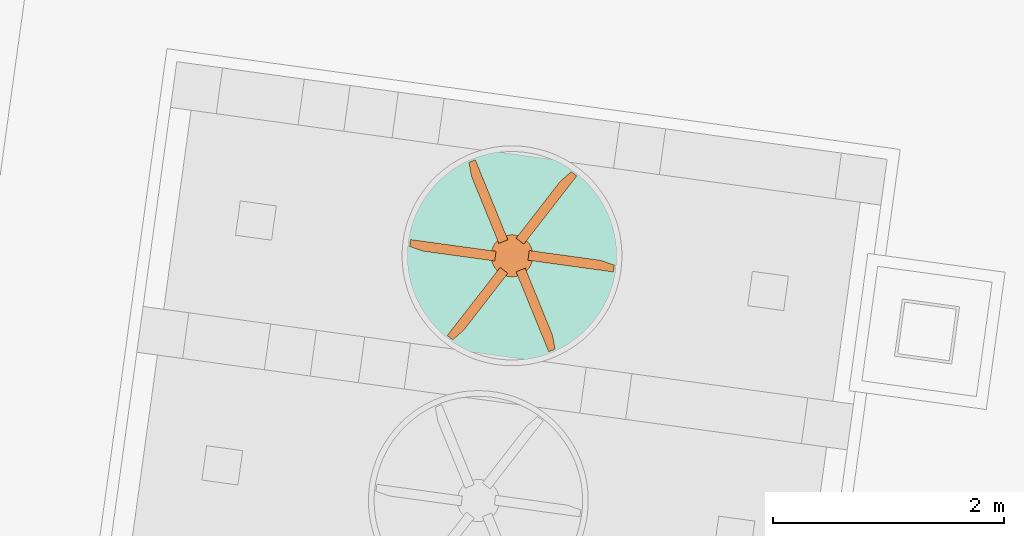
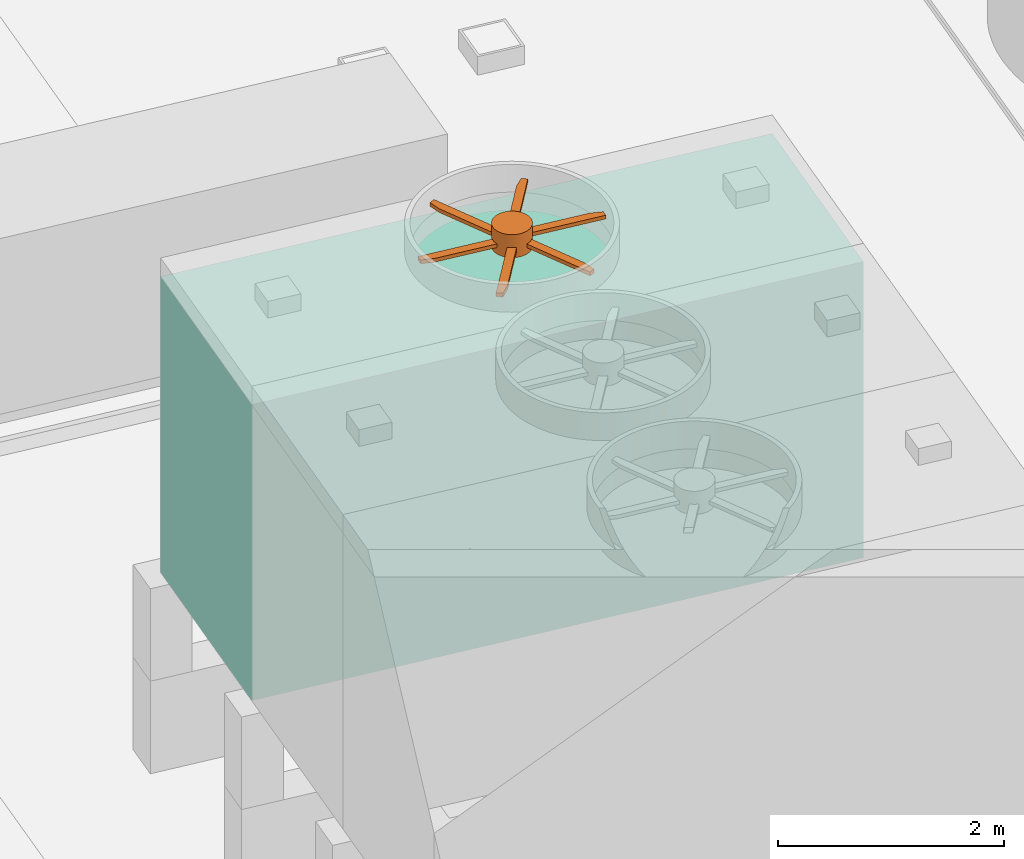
# Not in any storey, part 46 of 75: 7 proxies, plus 1 element that does not belong to this part.
"""IFC4 model written with IfcOpenShell, lengths in metres."""

import ifcopenshell
import ifcopenshell.guid

model = None  # the IFC model being written
_history = None  # IfcOwnerHistory: only IFC2X3 demands one
_inside = {}  # id of a spatial element -> (the spatial element, [elements in it])
_under = {}  # id of a project, library or spatial element -> (it, [spatial elements below it])
_declared = {}  # id of a project -> (the project, [libraries it declares])
_typed = {}  # id of a type object -> (the type object, [elements of that type])
_made_of = {}  # id of a material, layer set ... -> (it, [elements and type objects made of it])


def new_model(schema):
    """Start an empty IFC model of exactly this schema.

    Asked for "IFC4X3", IfcOpenShell would pick the latest addendum, in which some entities
    have other attributes; the version numbers below select the first issue.
    IFC2X3 requires an IfcOwnerHistory on every rooted entity: one is made here for all.
    """
    global model, _history
    if schema == "IFC4X3":
        model = ifcopenshell.file(schema_version=(4, 3, 0, 0))
    else:
        model = ifcopenshell.file(schema=schema)
    _inside.clear()
    _under.clear()
    _declared.clear()
    _typed.clear()
    _made_of.clear()
    _history = None
    if model.schema == "IFC2X3":
        org = make("IfcOrganization", Name="unknown")
        user = make(
            "IfcPersonAndOrganization",
            ThePerson=make("IfcPerson", FamilyName="unknown"),
            TheOrganization=org,
        )
        app = make(
            "IfcApplication",
            ApplicationDeveloper=org,
            Version="unknown",
            ApplicationFullName="unknown",
            ApplicationIdentifier="unknown",
        )
        _history = make(
            "IfcOwnerHistory",
            OwningUser=user,
            OwningApplication=app,
            ChangeAction="ADDED",
            CreationDate=0,
        )
    return model


def make(cls, **values):
    """One entity of the class cls with the attributes given. An attribute that is None is left unset."""
    return model.create_entity(
        cls, **{name: value for name, value in values.items() if value is not None}
    )


def rooted(cls, **values):
    """An entity with a GlobalId (a new one), such as an element, a storey or a relation."""
    return make(cls, GlobalId=ifcopenshell.guid.new(), OwnerHistory=_history, **values)


def si_unit(unit_type, name, prefix=None):
    """IfcSIUnit, for example si_unit("LENGTHUNIT", "METRE", prefix="MILLI")."""
    return make("IfcSIUnit", UnitType=unit_type, Prefix=prefix, Name=name)


def assignment(units):
    """IfcUnitAssignment: the units of a project."""
    return None if units is None else make("IfcUnitAssignment", Units=units)


def point(xyz):
    """IfcCartesianPoint."""
    return None if xyz is None else make("IfcCartesianPoint", Coordinates=xyz)


def direction(xyz):
    """IfcDirection."""
    return None if xyz is None else make("IfcDirection", DirectionRatios=xyz)


def frame(location, z_axis=None, x_axis=None):
    """IfcAxis2Placement3D, a coordinate frame: its origin and axes. An axis left out is left unset."""
    return make(
        "IfcAxis2Placement3D",
        Location=point(location),
        Axis=direction(z_axis),
        RefDirection=direction(x_axis),
    )


def origin_with_axes():
    """The frame at (0, 0, 0) with the z axis (0, 0, 1) and the x axis (1, 0, 0) written out."""
    return frame((0.0, 0.0, 0.0), z_axis=(0.0, 0.0, 1.0), x_axis=(1.0, 0.0, 0.0))


def place(relative_to, where):
    """IfcLocalPlacement: puts the frame where relative to a parent placement (None: the world)."""
    return make(
        "IfcLocalPlacement", PlacementRelTo=relative_to, RelativePlacement=where
    )


def context(
    kind, dimensions, precision=None, world=None, true_north=None, identifier=None
):
    """IfcGeometricRepresentationContext, for example the 3D "Model" context."""
    return make(
        "IfcGeometricRepresentationContext",
        ContextIdentifier=identifier,
        ContextType=kind,
        CoordinateSpaceDimension=dimensions,
        Precision=precision,
        WorldCoordinateSystem=world,
        TrueNorth=true_north,
    )


def subcontext(parent, identifier, kind, view, scale=None):
    """IfcGeometricRepresentationSubContext, for example "Body" below "Model"."""
    return make(
        "IfcGeometricRepresentationSubContext",
        ContextIdentifier=identifier,
        ContextType=kind,
        ParentContext=parent,
        TargetScale=scale,
        TargetView=view,
    )


def project(units=None, contexts=None):
    """IfcProject with its units and contexts."""
    return rooted(
        "IfcProject",
        Name="project",
        RepresentationContexts=contexts,
        UnitsInContext=assignment(units),
    )


def spatial(cls, under=None, at=None, **own):
    """A site, building, storey or space (cls), placed at a placement, below another one or the project."""
    s = rooted(cls, ObjectPlacement=at, **own)
    if under is not None:
        _under.setdefault(under.id(), (under, []))[1].append(s)
    return s


def point_list(points):
    """IfcCartesianPointList2D or 3D."""
    cls = (
        "IfcCartesianPointList2D" if len(points[0]) == 2 else "IfcCartesianPointList3D"
    )
    return make(cls, CoordList=points)


def triangles(points, corners, closed=None, point_numbers=None):
    """IfcTriangulatedFaceSet: each triangle names its three corners, points numbered from 1."""
    return make(
        "IfcTriangulatedFaceSet",
        Coordinates=point_list(points),
        Closed=closed,
        CoordIndex=corners,
        PnIndex=point_numbers,
    )


def shape(context_of_items, identifier, shape_type, items):
    """IfcShapeRepresentation: the items that make up one representation, for example the "Body"."""
    return make(
        "IfcShapeRepresentation",
        ContextOfItems=context_of_items,
        RepresentationIdentifier=identifier,
        RepresentationType=shape_type,
        Items=items,
    )


def made_of(thing, what):
    """Note that an element or type object is made of a material, layer set ...; save() writes the relation."""
    if what is not None:
        _made_of.setdefault(what.id(), (what, []))[1].append(thing)
    return thing


def element(
    cls,
    number,
    at=None,
    inside=None,
    cuts=None,
    type_object=None,
    material=None,
    context=None,
    identifier="Body",
    shape_type=None,
    held_by="IfcProductDefinitionShape",
    body=None,
    shapes=None,
    **own,
):
    """One element of the class cls, such as IfcWall. Its Tag is "e" and its number.

    at: its placement. inside: the storey or other place that contains it. cuts: it is an
    opening in that element (IfcRelVoidsElement). A single representation is given by context,
    identifier, shape_type and body (its items); several are given by shapes. held_by: the class
    of the entity that holds the representations. save() writes the other relations.
    """
    e = rooted(cls, Tag="e%d" % number, ObjectPlacement=at, **own)
    if body is not None:
        shapes = [shape(context, identifier, shape_type, body)]
    if shapes is not None:
        e.Representation = make(held_by, Representations=shapes)
    if inside is not None:
        _inside.setdefault(inside.id(), (inside, []))[1].append(e)
    if cuts is not None:
        rooted(
            "IfcRelVoidsElement", RelatingBuildingElement=cuts, RelatedOpeningElement=e
        )
    if type_object is not None:
        _typed.setdefault(type_object.id(), (type_object, []))[1].append(e)
    return made_of(e, material)


def aggregate(whole, parts):
    """IfcRelAggregates: a whole, such as a stair, and the parts it consists of."""
    return rooted("IfcRelAggregates", RelatingObject=whole, RelatedObjects=parts)


def save(model, path):
    """Write the relations noted so far, then the file.

    IfcRelAggregates (storeys below a building ...), IfcRelContainedInSpatialStructure (elements
    in a storey), IfcRelDefinesByType, IfcRelAssociatesMaterial and IfcRelDeclares: one each for
    every whole, place, type object, material and project.
    """
    for whole, parts in _under.values():
        aggregate(whole, parts)
    for where, things in _inside.values():
        rooted(
            "IfcRelContainedInSpatialStructure",
            RelatedElements=things,
            RelatingStructure=where,
        )
    for kind, things in _typed.values():
        rooted("IfcRelDefinesByType", RelatedObjects=things, RelatingType=kind)
    for what, things in _made_of.values():
        rooted("IfcRelAssociatesMaterial", RelatedObjects=things, RelatingMaterial=what)
    for by, libraries in _declared.values():
        rooted("IfcRelDeclares", RelatingContext=by, RelatedDefinitions=libraries)
    model.write(path)


model = new_model("IFC4")

# Units and contexts
model_context = context("Model", 3, precision=1e-05, world=origin_with_axes(), true_north=direction((0.0, 1.0)))
body_context = subcontext(model_context, "Body", "Model", "MODEL_VIEW")
ifc_project = project(units=[si_unit("AREAUNIT", "SQUARE_METRE"), si_unit("VOLUMEUNIT", "CUBIC_METRE"), si_unit("LENGTHUNIT", "METRE")], contexts=[model_context])

# Site
site_placement = place(None, origin_with_axes())
site = spatial("IfcSite", under=ifc_project, at=site_placement, Name="Parcela industrial Jinhong")

# Cooling tower, proxies
cooling_tower_placement = place(site_placement, origin_with_axes())
cooling_tower = element("IfcCoolingTower", 1, at=cooling_tower_placement, inside=site, Name="Torre de refrigeración WT3001A · Envolvente del cuerpo de la torre", ObjectType="Envolvente de equipo", PredefinedType="USERDEFINED", context=body_context, shape_type="Tessellation", body=[
    triangles([(42.53184, 48.464349, 6.3), (37.027833, 51.381199, 6.3), (36.736357, 49.261142, 6.3), (37.027833, 51.381199, 3.1), (42.53184, 48.464349, 3.1), (36.736357, 49.261142, 3.1), (42.823316, 50.584406, 6.3), (42.823316, 50.584406, 3.1)], [[1, 2, 3], [4, 5, 6], [1, 7, 2], [5, 4, 8], [5, 8, 7], [5, 7, 1], [8, 4, 2], [7, 8, 2], [3, 4, 6], [4, 3, 2], [6, 5, 1], [3, 6, 1]], closed=True),
])
proxy_1_placement = place(cooling_tower_placement, origin_with_axes())
proxy_1 = element("IfcBuildingElementProxy", 2, at=proxy_1_placement, Name="Torre de refrigeración WT3001A · Pala de ventilador 1 · contorno CAD", context=body_context, shape_type="Tessellation", body=[
    triangles([(39.462155, 50.754145, 6.66), (39.665528, 50.029772, 6.66), (39.744273, 50.061862, 6.66), (39.462155, 50.754145, 6.62), (39.744273, 50.061862, 6.62), (39.665528, 50.029772, 6.62), (39.406083, 50.730492, 6.66), (39.433917, 50.742798, 6.66), (39.433917, 50.742798, 6.62), (39.406083, 50.730492, 6.62), (39.4299, 50.607975, 6.66), (39.4299, 50.607975, 6.62)], [[1, 2, 3], [4, 5, 6], [8, 7, 1], [9, 4, 10], [11, 2, 7], [10, 6, 12], [2, 1, 7], [6, 10, 4], [8, 4, 9], [8, 1, 4], [7, 9, 10], [7, 8, 9], [11, 10, 12], [10, 11, 7], [6, 2, 12], [12, 2, 11], [6, 5, 3], [6, 3, 2], [4, 1, 5], [1, 3, 5]], closed=True),
])
proxy_2_placement = place(cooling_tower_placement, origin_with_axes())
proxy_2 = element("IfcBuildingElementProxy", 3, at=proxy_2_placement, Name="Torre de refrigeración WT3001A · Pala de ventilador 2 · contorno CAD", context=body_context, shape_type="Tessellation", body=[
    triangles([(39.894144, 49.815775, 6.66), (39.8154, 49.783685, 6.66), (40.097517, 49.091402, 6.66), (39.8154, 49.783685, 6.62), (39.894144, 49.815775, 6.62), (40.097517, 49.091402, 6.62), (40.153589, 49.115056, 6.66), (40.125756, 49.102749, 6.66), (40.125756, 49.102749, 6.62), (40.153589, 49.115056, 6.62), (40.129772, 49.237572, 6.66), (40.129772, 49.237572, 6.62)], [[1, 2, 3], [4, 5, 6], [8, 7, 3], [9, 6, 10], [11, 1, 7], [10, 5, 12], [1, 3, 7], [5, 10, 6], [8, 6, 9], [8, 3, 6], [7, 9, 10], [7, 8, 9], [11, 10, 12], [10, 11, 7], [5, 1, 12], [12, 1, 11], [5, 4, 2], [5, 2, 1], [3, 4, 6], [4, 3, 2]], closed=True),
])
proxy_3_placement = place(cooling_tower_placement, origin_with_axes())
proxy_3 = element("IfcBuildingElementProxy", 4, at=proxy_3_placement, Name="Torre de refrigeración WT3001A · Pala de ventilador 3 · contorno CAD", context=body_context, shape_type="Tessellation", body=[
    triangles([(39.744327, 49.77028, 6.66), (39.677164, 49.822431, 6.66), (39.218688, 49.231968, 6.66), (39.677164, 49.822431, 6.62), (39.744327, 49.77028, 6.62), (39.218688, 49.231968, 6.62), (39.267208, 49.195235, 6.66), (39.242634, 49.213187, 6.66), (39.242634, 49.213187, 6.62), (39.267208, 49.195235, 6.62), (39.361402, 49.27712, 6.66), (39.361402, 49.27712, 6.62)], [[1, 2, 3], [4, 5, 6], [8, 7, 3], [9, 6, 10], [11, 1, 7], [10, 5, 12], [1, 3, 7], [5, 10, 6], [8, 6, 9], [8, 3, 6], [7, 9, 10], [7, 8, 9], [11, 10, 12], [10, 11, 7], [5, 1, 12], [12, 1, 11], [5, 4, 2], [5, 2, 1], [3, 4, 6], [4, 3, 2]], closed=True),
])
proxy_4_placement = place(cooling_tower_placement, origin_with_axes())
proxy_4 = element("IfcBuildingElementProxy", 5, at=proxy_4_placement, Name="Torre de refrigeración WT3001A · Pala de ventilador 4 · contorno CAD", context=body_context, shape_type="Tessellation", body=[
    triangles([(40.340984, 50.613579, 6.66), (39.815346, 50.075267, 6.66), (39.882509, 50.023117, 6.66), (40.340984, 50.613579, 6.62), (39.882509, 50.023117, 6.62), (39.815346, 50.075267, 6.62), (40.292464, 50.650312, 6.66), (40.317038, 50.632361, 6.66), (40.317038, 50.632361, 6.62), (40.292464, 50.650312, 6.62), (40.19827, 50.568428, 6.66), (40.19827, 50.568428, 6.62)], [[1, 2, 3], [4, 5, 6], [8, 7, 1], [9, 4, 10], [11, 2, 7], [10, 6, 12], [2, 1, 7], [6, 10, 4], [8, 4, 9], [8, 1, 4], [7, 9, 10], [7, 8, 9], [11, 10, 12], [10, 11, 7], [6, 2, 12], [12, 2, 11], [6, 5, 3], [6, 3, 2], [4, 1, 5], [1, 3, 5]], closed=True),
])
proxy_5_placement = place(cooling_tower_placement, origin_with_axes())
proxy_5 = element("IfcBuildingElementProxy", 6, at=proxy_5_placement, Name="Torre de refrigeración WT3001A · Pala de ventilador 5 · contorno CAD", context=body_context, shape_type="Tessellation", body=[
    triangles([(40.658666, 49.782208, 6.66), (39.929654, 49.968269, 6.66), (39.918072, 49.884028, 6.66), (39.929654, 49.968269, 6.62), (40.658666, 49.782208, 6.62), (39.918072, 49.884028, 6.62), (40.666217, 49.842594, 6.66), (40.662958, 49.812336, 6.66), (40.662958, 49.812336, 6.62), (40.666217, 49.842594, 6.62), (40.548206, 49.883227, 6.66), (40.548206, 49.883227, 6.62)], [[1, 2, 3], [4, 5, 6], [8, 7, 1], [9, 5, 10], [11, 2, 7], [10, 4, 12], [7, 2, 1], [5, 4, 10], [5, 9, 8], [5, 8, 1], [7, 9, 10], [7, 8, 9], [11, 10, 12], [10, 11, 7], [12, 4, 2], [11, 12, 2], [3, 4, 6], [4, 3, 2], [6, 5, 1], [3, 6, 1]], closed=True),
])
proxy_6_placement = place(cooling_tower_placement, origin_with_axes())
proxy_6 = element("IfcBuildingElementProxy", 7, at=proxy_6_placement, Name="Torre de refrigeración WT3001A · Pala de ventilador 6 · contorno CAD", context=body_context, shape_type="Tessellation", body=[
    triangles([(39.6416, 49.961519, 6.66), (38.901007, 50.063339, 6.66), (39.630018, 49.877279, 6.66), (38.901007, 50.063339, 6.62), (39.6416, 49.961519, 6.62), (39.630018, 49.877279, 6.62), (38.893456, 50.002953, 6.66), (38.896715, 50.033211, 6.66), (38.896715, 50.033211, 6.62), (38.893456, 50.002953, 6.62), (39.011466, 49.962321, 6.66), (39.011466, 49.962321, 6.62)], [[1, 2, 3], [4, 5, 6], [8, 7, 2], [9, 4, 10], [11, 3, 7], [10, 6, 12], [7, 3, 2], [10, 4, 6], [4, 9, 8], [4, 8, 2], [7, 9, 10], [7, 8, 9], [11, 10, 12], [10, 11, 7], [12, 6, 3], [11, 12, 3], [5, 1, 6], [1, 3, 6], [5, 4, 2], [5, 2, 1]], closed=True),
])
proxy_7_placement = place(cooling_tower_placement, origin_with_axes())
proxy_7 = element("IfcBuildingElementProxy", 8, at=proxy_7_placement, Name="Torre de refrigeración WT3001A · Envolvente del buje del ventilador", context=body_context, shape_type="Tessellation", body=[
    triangles([(39.960334, 49.897958, 6.8), (39.957032, 49.880386, 6.8), (39.958899, 49.889131, 6.8), (39.957032, 49.880386, 6.55), (39.960334, 49.897958, 6.55), (39.958899, 49.889131, 6.55), (39.961897, 49.915769, 6.8), (39.961334, 49.906844, 6.8), (39.961334, 49.906844, 6.55), (39.961897, 49.915769, 6.55), (39.961707, 49.933648, 6.8), (39.962021, 49.924711, 6.8), (39.962021, 49.924711, 6.55), (39.961707, 49.933648, 6.55), (39.959765, 49.951422, 6.8), (39.960954, 49.942559, 6.8), (39.960954, 49.942559, 6.55), (39.959765, 49.951422, 6.55), (39.956091, 49.96892, 6.8), (39.958143, 49.960216, 6.8), (39.958143, 49.960216, 6.55), (39.956091, 49.96892, 6.55), (39.950719, 49.985974, 6.8), (39.953614, 49.977513, 6.8), (39.953614, 49.977513, 6.55), (39.950719, 49.985974, 6.55), (39.943701, 50.002419, 6.8), (39.947412, 49.994283, 6.8), (39.947412, 49.994283, 6.55), (39.943701, 50.002419, 6.55), (39.935106, 50.018097, 6.8), (39.939596, 50.010364, 6.8), (39.939596, 50.010364, 6.55), (39.935106, 50.018097, 6.55), (39.925015, 50.032857, 6.8), (39.930241, 50.025601, 6.8), (39.930241, 50.025601, 6.55), (39.925015, 50.032857, 6.55), (39.913525, 50.046557, 6.8), (39.919438, 50.039848, 6.8), (39.919438, 50.039848, 6.55), (39.913525, 50.046557, 6.55), (39.900749, 50.059065, 6.8), (39.907291, 50.052968, 6.8), (39.907291, 50.052968, 6.55), (39.900749, 50.059065, 6.55), (39.886808, 50.07026, 6.8), (39.893916, 50.064834, 6.8), (39.893916, 50.064834, 6.55), (39.886808, 50.07026, 6.55), (39.871836, 50.080035, 6.8), (39.879442, 50.075331, 6.8), (39.879442, 50.075331, 6.55), (39.871836, 50.080035, 6.55), (39.855979, 50.088295, 6.8), (39.864009, 50.08436, 6.8), (39.864009, 50.08436, 6.55), (39.855979, 50.088295, 6.55), (39.839389, 50.094961, 6.8), (39.847766, 50.091832, 6.8), (39.847766, 50.091832, 6.55), (39.839389, 50.094961, 6.55), (39.822224, 50.099969, 6.8), (39.830868, 50.097676, 6.8), (39.830868, 50.097676, 6.55), (39.822224, 50.099969, 6.55), (39.804652, 50.103271, 6.8), (39.813479, 50.101836, 6.8), (39.813479, 50.101836, 6.55), (39.804652, 50.103271, 6.55), (39.786841, 50.104834, 6.8), (39.795766, 50.104271, 6.8), (39.795766, 50.104271, 6.55), (39.786841, 50.104834, 6.55), (39.777899, 50.104959, 6.8), (39.768962, 50.104644, 6.8), (39.768962, 50.104644, 6.55), (39.777899, 50.104959, 6.55), (39.751188, 50.102702, 6.8), (39.760051, 50.103891, 6.8), (39.760051, 50.103891, 6.55), (39.751188, 50.102702, 6.55), (39.73369, 50.099028, 6.8), (39.742394, 50.10108, 6.8), (39.742394, 50.10108, 6.55), (39.73369, 50.099028, 6.55), (39.716636, 50.093656, 6.8), (39.725097, 50.096551, 6.8), (39.725097, 50.096551, 6.55), (39.716636, 50.093656, 6.55), (39.700191, 50.086639, 6.8), (39.708327, 50.090349, 6.8), (39.708327, 50.090349, 6.55), (39.700191, 50.086639, 6.55), (39.684513, 50.078043, 6.8), (39.692246, 50.082533, 6.8), (39.692246, 50.082533, 6.55), (39.684513, 50.078043, 6.55), (39.669753, 50.067952, 6.8), (39.677009, 50.073179, 6.8), (39.677009, 50.073179, 6.55), (39.669753, 50.067952, 6.55), (39.656053, 50.056463, 6.8), (39.662762, 50.062375, 6.8), (39.662762, 50.062375, 6.55), (39.656053, 50.056463, 6.55), (39.643545, 50.043686, 6.8), (39.649642, 50.050228, 6.8), (39.649642, 50.050228, 6.55), (39.643545, 50.043686, 6.55), (39.63235, 50.029745, 6.8), (39.637777, 50.036853, 6.8), (39.637777, 50.036853, 6.55), (39.63235, 50.029745, 6.55), (39.622575, 50.014774, 6.8), (39.627279, 50.022379, 6.8), (39.627279, 50.022379, 6.55), (39.622575, 50.014774, 6.55), (39.614315, 49.998916, 6.8), (39.61825, 50.006946, 6.8), (39.61825, 50.006946, 6.55), (39.614315, 49.998916, 6.55), (39.607649, 49.982326, 6.8), (39.610778, 49.990703, 6.8), (39.610778, 49.990703, 6.55), (39.607649, 49.982326, 6.55), (39.602641, 49.965162, 6.8), (39.604934, 49.973805, 6.8), (39.604934, 49.973805, 6.55), (39.602641, 49.965162, 6.55), (39.599339, 49.947589, 6.8), (39.600774, 49.956416, 6.8), (39.600774, 49.956416, 6.55), (39.599339, 49.947589, 6.55), (39.597776, 49.929778, 6.8), (39.598339, 49.938703, 6.8), (39.598339, 49.938703, 6.55), (39.597776, 49.929778, 6.55), (39.597966, 49.911899, 6.8), (39.597651, 49.920836, 6.8), (39.597651, 49.920836, 6.55), (39.597966, 49.911899, 6.55), (39.599908, 49.894125, 6.8), (39.598719, 49.902988, 6.8), (39.598719, 49.902988, 6.55), (39.599908, 49.894125, 6.55), (39.603582, 49.876627, 6.8), (39.60153, 49.885331, 6.8), (39.60153, 49.885331, 6.55), (39.603582, 49.876627, 6.55), (39.608954, 49.859573, 6.8), (39.606059, 49.868034, 6.8), (39.606059, 49.868034, 6.55), (39.608954, 49.859573, 6.55), (39.615972, 49.843128, 6.8), (39.612261, 49.851265, 6.8), (39.612261, 49.851265, 6.55), (39.615972, 49.843128, 6.55), (39.624567, 49.82745, 6.8), (39.620077, 49.835184, 6.8), (39.620077, 49.835184, 6.55), (39.624567, 49.82745, 6.55), (39.634658, 49.81269, 6.8), (39.629431, 49.819946, 6.8), (39.629431, 49.819946, 6.55), (39.634658, 49.81269, 6.55), (39.646147, 49.79899, 6.8), (39.640235, 49.805699, 6.8), (39.640235, 49.805699, 6.55), (39.646147, 49.79899, 6.55), (39.658924, 49.786483, 6.8), (39.652382, 49.79258, 6.8), (39.652382, 49.79258, 6.55), (39.658924, 49.786483, 6.55), (39.672865, 49.775287, 6.8), (39.665757, 49.780714, 6.8), (39.665757, 49.780714, 6.55), (39.672865, 49.775287, 6.55), (39.687836, 49.765513, 6.8), (39.680231, 49.770216, 6.8), (39.680231, 49.770216, 6.55), (39.687836, 49.765513, 6.55), (39.703694, 49.757252, 6.8), (39.695664, 49.761188, 6.8), (39.695664, 49.761188, 6.55), (39.703694, 49.757252, 6.55), (39.720284, 49.750586, 6.8), (39.711907, 49.753715, 6.8), (39.711907, 49.753715, 6.55), (39.720284, 49.750586, 6.55), (39.737448, 49.745578, 6.8), (39.728805, 49.747871, 6.8), (39.728805, 49.747871, 6.55), (39.737448, 49.745578, 6.55), (39.755021, 49.742276, 6.8), (39.746194, 49.743711, 6.8), (39.746194, 49.743711, 6.55), (39.755021, 49.742276, 6.55), (39.772832, 49.740713, 6.8), (39.763907, 49.741276, 6.8), (39.763907, 49.741276, 6.55), (39.772832, 49.740713, 6.55), (39.790711, 49.740903, 6.8), (39.781774, 49.740589, 6.8), (39.781774, 49.740589, 6.55), (39.790711, 49.740903, 6.55), (39.808485, 49.742845, 6.8), (39.799622, 49.741656, 6.8), (39.799622, 49.741656, 6.55), (39.808485, 49.742845, 6.55), (39.825983, 49.746519, 6.8), (39.817279, 49.744467, 6.8), (39.817279, 49.744467, 6.55), (39.825983, 49.746519, 6.55), (39.843037, 49.751891, 6.8), (39.834576, 49.748996, 6.8), (39.834576, 49.748996, 6.55), (39.843037, 49.751891, 6.55), (39.859482, 49.758909, 6.8), (39.851345, 49.755198, 6.8), (39.851345, 49.755198, 6.55), (39.859482, 49.758909, 6.55), (39.87516, 49.767505, 6.8), (39.867426, 49.763014, 6.8), (39.867426, 49.763014, 6.55), (39.87516, 49.767505, 6.55), (39.88992, 49.777596, 6.8), (39.882664, 49.772369, 6.8), (39.882664, 49.772369, 6.55), (39.88992, 49.777596, 6.55), (39.90362, 49.789085, 6.8), (39.896911, 49.783172, 6.8), (39.896911, 49.783172, 6.55), (39.90362, 49.789085, 6.55), (39.916127, 49.801861, 6.8), (39.91003, 49.795319, 6.8), (39.91003, 49.795319, 6.55), (39.916127, 49.801861, 6.55), (39.927323, 49.815802, 6.8), (39.921896, 49.808694, 6.8), (39.921896, 49.808694, 6.55), (39.927323, 49.815802, 6.55), (39.937098, 49.830774, 6.8), (39.932394, 49.823168, 6.8), (39.932394, 49.823168, 6.55), (39.937098, 49.830774, 6.55), (39.945358, 49.846631, 6.8), (39.941422, 49.838601, 6.8), (39.941422, 49.838601, 6.55), (39.945358, 49.846631, 6.55), (39.952024, 49.863222, 6.8), (39.948895, 49.854844, 6.8), (39.948895, 49.854844, 6.55), (39.952024, 49.863222, 6.55), (39.954739, 49.871742, 6.8), (39.954739, 49.871742, 6.55)], [[1, 2, 3], [4, 5, 6], [8, 7, 1], [9, 5, 10], [12, 11, 7], [13, 10, 14], [16, 15, 11], [17, 14, 18], [20, 19, 15], [21, 18, 22], [24, 23, 19], [25, 22, 26], [28, 27, 23], [29, 26, 30], [32, 31, 27], [33, 30, 34], [36, 35, 31], [37, 34, 38], [40, 39, 35], [41, 38, 42], [44, 43, 39], [45, 42, 46], [48, 47, 43], [49, 46, 50], [52, 51, 47], [53, 50, 54], [56, 55, 51], [57, 54, 58], [60, 59, 55], [61, 58, 62], [64, 63, 59], [65, 62, 66], [68, 67, 63], [69, 66, 70], [72, 71, 67], [73, 70, 74], [71, 75, 76], [77, 78, 74], [80, 79, 76], [81, 77, 82], [84, 83, 79], [85, 82, 86], [88, 87, 83], [89, 86, 90], [92, 91, 87], [93, 90, 94], [96, 95, 91], [97, 94, 98], [100, 99, 95], [101, 98, 102], [104, 103, 99], [105, 102, 106], [108, 107, 103], [109, 106, 110], [112, 111, 107], [113, 110, 114], [116, 115, 111], [117, 114, 118], [120, 119, 115], [121, 118, 122], [124, 123, 119], [125, 122, 126], [128, 127, 123], [129, 126, 130], [132, 131, 127], [133, 130, 134], [136, 135, 131], [137, 134, 138], [140, 139, 135], [141, 138, 142], [144, 143, 139], [145, 142, 146], [148, 147, 143], [149, 146, 150], [152, 151, 147], [153, 150, 154], [156, 155, 151], [157, 154, 158], [160, 159, 155], [161, 158, 162], [164, 163, 159], [165, 162, 166], [168, 167, 163], [169, 166, 170], [172, 171, 167], [173, 170, 174], [176, 175, 171], [177, 174, 178], [180, 179, 175], [181, 178, 182], [184, 183, 179], [185, 182, 186], [188, 187, 183], [189, 186, 190], [192, 191, 187], [193, 190, 194], [196, 195, 191], [197, 194, 198], [200, 199, 195], [201, 198, 202], [204, 203, 199], [205, 202, 206], [208, 207, 203], [209, 206, 210], [212, 211, 207], [213, 210, 214], [216, 215, 211], [217, 214, 218], [220, 219, 215], [221, 218, 222], [224, 223, 219], [225, 222, 226], [228, 227, 223], [229, 226, 230], [232, 231, 227], [233, 230, 234], [236, 235, 231], [237, 234, 238], [240, 239, 235], [241, 238, 242], [244, 243, 239], [245, 242, 246], [248, 247, 243], [249, 246, 250], [252, 251, 247], [253, 250, 254], [255, 2, 251], [254, 4, 256], [7, 2, 1], [5, 4, 10], [11, 15, 7], [14, 10, 18], [19, 23, 15], [22, 18, 26], [27, 31, 23], [30, 26, 34], [35, 39, 31], [38, 34, 42], [43, 47, 39], [46, 42, 50], [51, 55, 47], [54, 50, 58], [59, 63, 55], [62, 58, 66], [67, 71, 63], [70, 66, 74], [71, 76, 79], [82, 77, 74], [83, 87, 79], [86, 82, 90], [91, 95, 87], [94, 90, 98], [99, 103, 95], [102, 98, 106], [107, 111, 103], [110, 106, 114], [115, 119, 111], [118, 114, 122], [123, 127, 119], [126, 122, 130], [131, 135, 127], [134, 130, 138], [139, 143, 135], [142, 138, 146], [147, 151, 143], [150, 146, 154], [155, 159, 151], [158, 154, 162], [163, 167, 159], [166, 162, 170], [171, 175, 167], [174, 170, 178], [179, 183, 175], [182, 178, 186], [187, 191, 183], [190, 186, 194], [195, 199, 191], [198, 194, 202], [203, 207, 199], [206, 202, 210], [211, 215, 207], [214, 210, 218], [219, 223, 215], [222, 218, 226], [227, 231, 223], [230, 226, 234], [235, 239, 231], [238, 234, 242], [243, 247, 239], [246, 242, 250], [251, 2, 247], [250, 4, 254], [7, 15, 2], [10, 4, 18], [23, 31, 15], [26, 18, 34], [39, 47, 31], [42, 34, 50], [55, 63, 47], [58, 50, 66], [63, 71, 79], [82, 74, 66], [87, 95, 79], [90, 82, 98], [103, 111, 95], [106, 98, 114], [119, 127, 111], [122, 114, 130], [135, 143, 127], [138, 130, 146], [151, 159, 143], [154, 146, 162], [167, 175, 159], [170, 162, 178], [183, 191, 175], [186, 178, 194], [199, 207, 191], [202, 194, 210], [215, 223, 207], [218, 210, 226], [231, 239, 223], [234, 226, 242], [247, 2, 239], [242, 4, 250], [15, 31, 2], [18, 4, 34], [47, 63, 31], [50, 34, 66], [63, 79, 95], [98, 82, 66], [111, 127, 95], [114, 98, 130], [143, 159, 127], [146, 130, 162], [175, 191, 159], [178, 162, 194], [207, 223, 191], [210, 194, 226], [239, 2, 223], [226, 4, 242], [2, 31, 63], [66, 34, 4], [63, 95, 127], [130, 98, 66], [127, 159, 191], [194, 162, 130], [223, 2, 191], [194, 4, 226], [2, 63, 127], [130, 66, 4], [191, 2, 127], [130, 4, 194], [5, 9, 8], [5, 8, 1], [7, 9, 10], [7, 8, 9], [10, 13, 12], [10, 12, 7], [11, 13, 14], [11, 12, 13], [14, 17, 16], [14, 16, 11], [15, 17, 18], [15, 16, 17], [18, 21, 20], [18, 20, 15], [19, 21, 22], [19, 20, 21], [22, 25, 24], [22, 24, 19], [23, 25, 26], [23, 24, 25], [26, 29, 28], [26, 28, 23], [27, 29, 30], [27, 28, 29], [30, 33, 32], [30, 32, 27], [31, 33, 34], [31, 32, 33], [34, 37, 36], [34, 36, 31], [35, 37, 38], [35, 36, 37], [38, 41, 40], [38, 40, 35], [39, 41, 42], [39, 40, 41], [42, 45, 44], [42, 44, 39], [43, 45, 46], [43, 44, 45], [48, 46, 49], [48, 43, 46], [47, 49, 50], [47, 48, 49], [52, 50, 53], [52, 47, 50], [51, 53, 54], [51, 52, 53], [56, 54, 57], [56, 51, 54], [55, 57, 58], [55, 56, 57], [60, 58, 61], [60, 55, 58], [59, 61, 62], [59, 60, 61], [64, 62, 65], [64, 59, 62], [63, 65, 66], [63, 64, 65], [68, 66, 69], [68, 63, 66], [67, 69, 70], [67, 68, 69], [72, 70, 73], [72, 67, 70], [71, 73, 74], [71, 72, 73], [75, 74, 78], [75, 71, 74], [78, 77, 76], [78, 76, 75], [80, 77, 81], [80, 76, 77], [79, 81, 82], [79, 80, 81], [84, 82, 85], [84, 79, 82], [83, 85, 86], [83, 84, 85], [88, 86, 89], [88, 83, 86], [87, 89, 90], [87, 88, 89], [92, 90, 93], [92, 87, 90], [91, 93, 94], [91, 92, 93], [96, 94, 97], [96, 91, 94], [95, 97, 98], [95, 96, 97], [100, 98, 101], [100, 95, 98], [99, 101, 102], [99, 100, 101], [104, 102, 105], [104, 99, 102], [103, 105, 106], [103, 104, 105], [108, 106, 109], [108, 103, 106], [107, 109, 110], [107, 108, 109], [110, 113, 112], [110, 112, 107], [111, 113, 114], [111, 112, 113], [114, 117, 116], [114, 116, 111], [115, 117, 118], [115, 116, 117], [118, 121, 120], [118, 120, 115], [119, 121, 122], [119, 120, 121], [122, 125, 124], [122, 124, 119], [123, 125, 126], [123, 124, 125], [126, 129, 128], [126, 128, 123], [127, 129, 130], [127, 128, 129], [130, 133, 132], [130, 132, 127], [131, 133, 134], [131, 132, 133], [134, 137, 136], [134, 136, 131], [135, 137, 138], [135, 136, 137], [138, 141, 140], [138, 140, 135], [139, 141, 142], [139, 140, 141], [142, 145, 144], [142, 144, 139], [143, 145, 146], [143, 144, 145], [146, 149, 148], [146, 148, 143], [147, 149, 150], [147, 148, 149], [150, 153, 152], [150, 152, 147], [151, 153, 154], [151, 152, 153], [154, 157, 156], [154, 156, 151], [155, 157, 158], [155, 156, 157], [158, 161, 160], [158, 160, 155], [159, 161, 162], [159, 160, 161], [162, 165, 164], [162, 164, 159], [163, 165, 166], [163, 164, 165], [166, 169, 168], [166, 168, 163], [167, 169, 170], [167, 168, 169], [170, 173, 172], [170, 172, 167], [171, 173, 174], [171, 172, 173], [176, 174, 177], [176, 171, 174], [175, 177, 178], [175, 176, 177], [180, 178, 181], [180, 175, 178], [179, 181, 182], [179, 180, 181], [184, 182, 185], [184, 179, 182], [183, 185, 186], [183, 184, 185], [188, 186, 189], [188, 183, 186], [187, 189, 190], [187, 188, 189], [192, 190, 193], [192, 187, 190], [191, 193, 194], [191, 192, 193], [196, 194, 197], [196, 191, 194], [195, 197, 198], [195, 196, 197], [200, 198, 201], [200, 195, 198], [199, 201, 202], [199, 200, 201], [204, 202, 205], [204, 199, 202], [203, 205, 206], [203, 204, 205], [208, 206, 209], [208, 203, 206], [207, 209, 210], [207, 208, 209], [212, 210, 213], [212, 207, 210], [211, 213, 214], [211, 212, 213], [216, 214, 217], [216, 211, 214], [215, 217, 218], [215, 216, 217], [220, 218, 221], [220, 215, 218], [219, 221, 222], [219, 220, 221], [224, 222, 225], [224, 219, 222], [223, 225, 226], [223, 224, 225], [228, 226, 229], [228, 223, 226], [227, 229, 230], [227, 228, 229], [232, 230, 233], [232, 227, 230], [231, 233, 234], [231, 232, 233], [236, 234, 237], [236, 231, 234], [235, 237, 238], [235, 236, 237], [238, 241, 240], [238, 240, 235], [239, 241, 242], [239, 240, 241], [242, 245, 244], [242, 244, 239], [243, 245, 246], [243, 244, 245], [246, 249, 248], [246, 248, 243], [247, 249, 250], [247, 248, 249], [250, 253, 252], [250, 252, 247], [251, 253, 254], [251, 252, 253], [254, 256, 255], [254, 255, 251], [256, 4, 2], [256, 2, 255], [3, 4, 6], [4, 3, 2], [6, 5, 1], [1, 3, 6]], closed=True),
])
aggregate(cooling_tower, [proxy_1, proxy_2, proxy_3, proxy_4, proxy_5, proxy_6, proxy_7])

save(model, "model.ifc")
